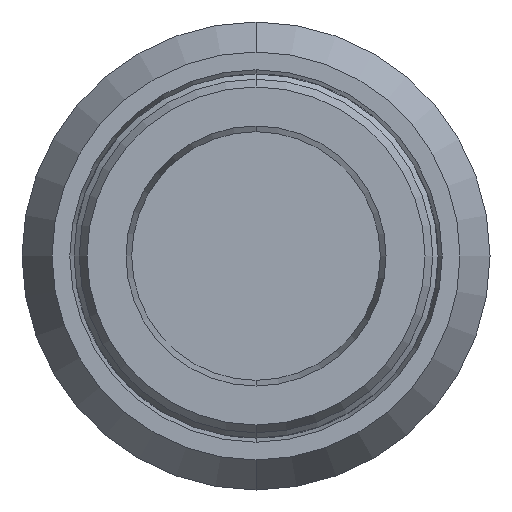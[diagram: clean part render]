
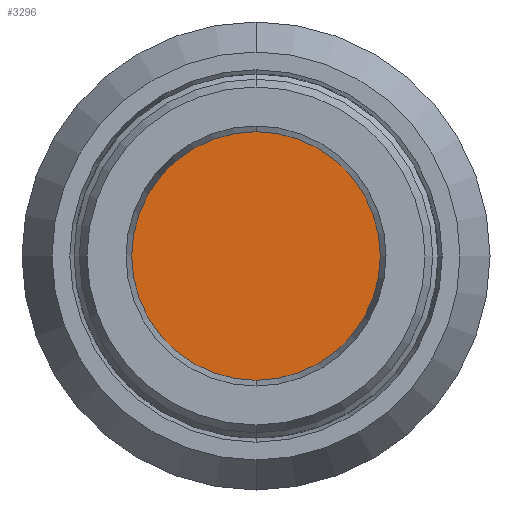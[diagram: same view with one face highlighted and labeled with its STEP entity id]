
A CAD part, front view. The second image highlights one B-rep face of the part: STEP entity #3296.
In plain terms, the highlighted planar face has unit normal (0, -1, 0).
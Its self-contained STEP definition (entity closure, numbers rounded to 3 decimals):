
#50 = AXIS2_PLACEMENT_3D ( 'NONE', #2647, #1992, #3218 ) ;
#82 = EDGE_LOOP ( 'NONE', ( #1450, #777 ) ) ;
#308 = AXIS2_PLACEMENT_3D ( 'NONE', #1210, #1207, #1206 ) ;
#608 = VERTEX_POINT ( 'NONE', #1452 ) ;
#756 = AXIS2_PLACEMENT_3D ( 'NONE', #2752, #2736, #2739 ) ;
#777 = ORIENTED_EDGE ( 'NONE', *, *, #2447, .F. ) ;
#918 = CIRCLE ( 'NONE', #756, 11.95 ) ;
#927 = VERTEX_POINT ( 'NONE', #1628 ) ;
#1206 = DIRECTION ( 'NONE',  ( 0., 0., 1. ) ) ;
#1207 = DIRECTION ( 'NONE',  ( 0., 1., 0. ) ) ;
#1210 = CARTESIAN_POINT ( 'NONE',  ( 0., -66.4, 0. ) ) ;
#1450 = ORIENTED_EDGE ( 'NONE', *, *, #3054, .F. ) ;
#1452 = CARTESIAN_POINT ( 'NONE',  ( 0., -66.4, 11.95 ) ) ;
#1628 = CARTESIAN_POINT ( 'NONE',  ( 0., -66.4, -11.95 ) ) ;
#1992 = DIRECTION ( 'NONE',  ( 0., 1., 0. ) ) ;
#2411 = FACE_OUTER_BOUND ( 'NONE', #82, .T. ) ;
#2447 = EDGE_CURVE ( 'NONE', #608, #927, #918, .T. ) ;
#2647 = CARTESIAN_POINT ( 'NONE',  ( 0., -66.4, 0. ) ) ;
#2736 = DIRECTION ( 'NONE',  ( 0., 1., 0. ) ) ;
#2739 = DIRECTION ( 'NONE',  ( 0., 0., 1. ) ) ;
#2752 = CARTESIAN_POINT ( 'NONE',  ( 0., -66.4, 0. ) ) ;
#3054 = EDGE_CURVE ( 'NONE', #927, #608, #3375, .T. ) ;
#3218 = DIRECTION ( 'NONE',  ( 0., 0., 1. ) ) ;
#3292 = PLANE ( 'NONE',  #50 ) ;
#3296 = ADVANCED_FACE ( 'NONE', ( #2411 ), #3292, .F. ) ;
#3375 = CIRCLE ( 'NONE', #308, 11.95 ) ;
